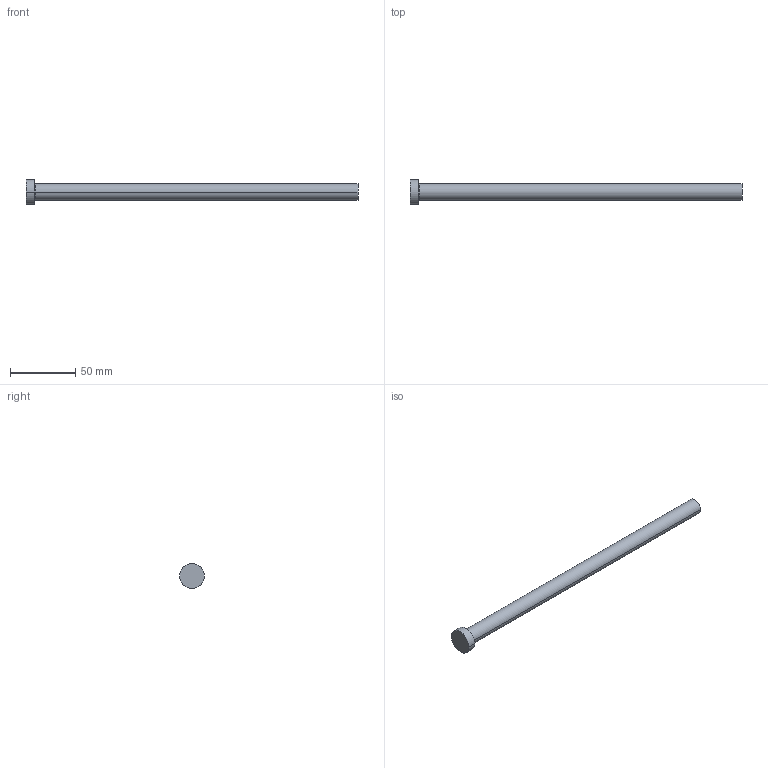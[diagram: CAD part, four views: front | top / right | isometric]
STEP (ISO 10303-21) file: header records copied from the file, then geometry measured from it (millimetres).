
FILE_DESCRIPTION (( 'STEP AP214' ), '1' );
FILE_NAME ('P32-10.STEP', '2020-03-12T10:39:46', ( '' ), ( '' ), 'SwSTEP 2.0', 'SolidWorks 2018', '' );
FILE_SCHEMA (( 'AUTOMOTIVE_DESIGN' ));
Length unit declared in the file: inch
Products named in the file (1): P32-10
Bounding box: 254 x 19.05 x 19.05 mm (x, y, z)
Volume: 31219.2 mm3; surface area: 10496.6 mm2
Topology: 1 solids, 1 shells, 13 faces, 24 edges, 14 vertices
Faces by surface type: cone 4, cylinder 4, plane 3, torus 2
Entity records: 366 total; most frequent: DIRECTION 68, CARTESIAN_POINT 52, ORIENTED_EDGE 48, AXIS2_PLACEMENT_3D 30, EDGE_CURVE 24, CIRCLE 16, VERTEX_POINT 14, EDGE_LOOP 14
